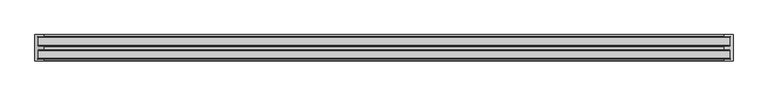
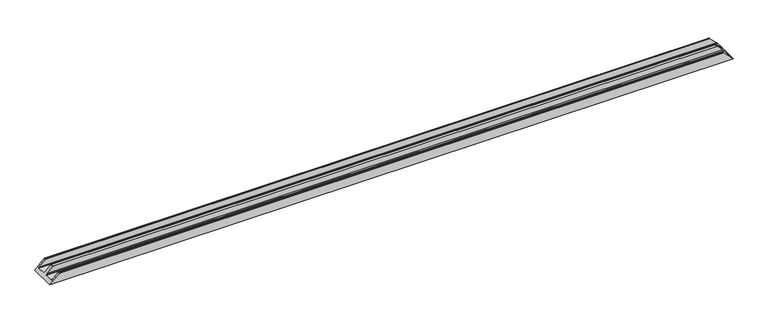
"""IFC4 building model written with IfcOpenShell, lengths in millimetres: proxy geometry, Weiku - Montante - Caixilho duplo 02.3.02.409 : Weiku - Montante - Caixilho duplo 02.3.02.409."""

from ifc_helpers import new_model, si_unit, frame, origin, place, context, project, spatial, ellipse_curve, source, transform, mapped, element, save
from ifc_brep_helpers import plane_surface, cylinder_surface, advanced_brep


def generic_models_45f3bb5d(model_context):
    return source(origin(), model_context, "Body", "AdvancedBrep", [
        advanced_brep(
        [(-2038.2, -9.8, 18.2), (2038.2, -9.8, 18.2), (2000.5, -9.8, 55.9), (-2000.5, -9.8, 55.9), (-2040.7000079, -63.85, 15.6999921), (2040.7000079, -63.85, 15.6999921), (2040.7000079, -15.05, 15.6999921), (-2040.7000079, -15.05, 15.6999921), (-2000.5000055, -69.1, 55.8999945), (2000.5000055, -69.1, 55.8999945), (2032.5700642, -69.1, 23.8299358), (-2032.5700642, -69.1, 23.8299358), (-2000.0000055, -86.65, 56.3999945), (2000.0000055, -86.65, 56.3999945), (2000.0000055, -69.6, 56.3999945), (-2000.0000055, -69.6, 56.3999945), (-2032.6236827, -87.15, 23.7763173), (2032.6236827, -87.15, 23.7763173), (2000.5000055, -87.15, 55.8999945), (-2000.5000055, -87.15, 55.8999945), (-2056.4, -156.2000166, 0.0), (-2056.4, 0.0, 0.0), (2056.4, 0.0, 0.0), (2056.4, -156.2000166, 0.0), (-2000.5, 0.0, 55.9), (2000.5, 0.0, 55.9), (-2000.0, -9.3, 56.4), (2000.0, -9.3, 56.4), (2000.0, -0.5, 56.4), (-2000.0, -0.5, 56.4), (-2000.5, -156.2000166, 55.9), (-2000.0, -155.7000166, 56.4), (-2000.0, -146.9000166, 56.4), (-2000.5, -146.4000166, 55.9), (-2038.2, -146.4000166, 18.2), (-2038.2, -141.1500166, 18.2), (-2040.7000079, -141.1500166, 15.6999921), (-2040.7000079, -92.3500166, 15.6999921), (-2038.2000178, -92.3500166, 18.1999822), (-2038.2, -63.85, 18.2), (-2038.2, -15.05, 18.2), (2038.2, -15.05, 18.2), (2038.2, -63.85, 18.2), (2038.2000178, -92.3500166, 18.1999822), (2040.7000079, -92.3500166, 15.6999921), (2040.7000079, -141.1500166, 15.6999921), (2038.2, -141.1500166, 18.2), (2038.2, -146.4000166, 18.2), (2000.5, -146.4000166, 55.9), (2000.0, -146.9000166, 56.4), (2000.0, -155.7000166, 56.4), (2000.5, -156.2000166, 55.9)],
        [
            (0, 1),
            (1, 2),
            (2, 3),
            (3, 0),
            (4, 5),
            (5, 6),
            (6, 7),
            (7, 4),
            (8, 9),
            (9, 10),
            (10, 11),
            (11, 8),
            (12, 13),
            (13, 14),
            (14, 15),
            (15, 12),
            (16, 17),
            (17, 18),
            (18, 19),
            (19, 16),
            (20, 21),
            (21, 22),
            (22, 23),
            (23, 20),
            (21, 24),
            (24, 25),
            (25, 22),
            (26, 27),
            (27, 28),
            (28, 29),
            (29, 26),
            (3, 26, ellipse_curve(frame((-2000.5, -9.3, 55.9), z_axis=(-0.7071067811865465, 0.0, 0.7071067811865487), x_axis=(-0.7071067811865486, 0.0, -0.7071067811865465)), 0.7071068, 0.5)),
            (29, 24, ellipse_curve(frame((-2000.5, -0.5, 55.9), z_axis=(-0.7071067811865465, 0.0, 0.7071067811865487), x_axis=(-0.7071067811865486, 0.0, -0.7071067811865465)), 0.7071068, 0.5)),
            (20, 30),
            (30, 31, ellipse_curve(frame((-2000.5, -155.7000166, 55.9), z_axis=(-0.7071067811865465, 0.0, 0.7071067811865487), x_axis=(-0.7071067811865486, 0.0, -0.7071067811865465)), 0.7071068, 0.5)),
            (31, 32),
            (32, 33, ellipse_curve(frame((-2000.5, -146.9000166, 55.9), z_axis=(-0.7071067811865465, 0.0, 0.7071067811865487), x_axis=(-0.7071067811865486, 0.0, -0.7071067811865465)), 0.7071068, 0.5)),
            (33, 34),
            (34, 35),
            (35, 36),
            (36, 37),
            (37, 38),
            (38, 16),
            (19, 12, ellipse_curve(frame((-2000.5000055, -86.65, 55.8999945), z_axis=(-0.7071067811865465, 0.0, 0.7071067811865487), x_axis=(-0.7071067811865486, 0.0, -0.7071067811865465)), 0.7071068, 0.5)),
            (15, 8, ellipse_curve(frame((-2000.5000055, -69.6, 55.8999945), z_axis=(-0.7071067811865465, 0.0, 0.7071067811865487), x_axis=(-0.7071067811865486, 0.0, -0.7071067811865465)), 0.7071068, 0.5)),
            (11, 39),
            (39, 4),
            (7, 40),
            (40, 0),
            (1, 41),
            (41, 6),
            (5, 42),
            (42, 10),
            (9, 14, ellipse_curve(frame((2000.5000055, -69.6, 55.8999945), z_axis=(0.7071067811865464, 0.0, 0.7071067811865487), x_axis=(-0.7071067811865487, 0.0, 0.7071067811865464)), 0.7071068, 0.5)),
            (13, 18, ellipse_curve(frame((2000.5000055, -86.65, 55.8999945), z_axis=(0.7071067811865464, 0.0, 0.7071067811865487), x_axis=(-0.7071067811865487, 0.0, 0.7071067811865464)), 0.7071068, 0.5)),
            (17, 43),
            (43, 44),
            (44, 45),
            (45, 46),
            (46, 47),
            (47, 48),
            (48, 49, ellipse_curve(frame((2000.5, -146.9000166, 55.9), z_axis=(0.7071067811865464, 0.0, 0.7071067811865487), x_axis=(-0.7071067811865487, 0.0, 0.7071067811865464)), 0.7071068, 0.5)),
            (49, 50),
            (50, 51, ellipse_curve(frame((2000.5, -155.7000166, 55.9), z_axis=(0.7071067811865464, 0.0, 0.7071067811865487), x_axis=(-0.7071067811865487, 0.0, 0.7071067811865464)), 0.7071068, 0.5)),
            (51, 23),
            (25, 28, ellipse_curve(frame((2000.5, -0.5, 55.9), z_axis=(0.7071067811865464, 0.0, 0.7071067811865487), x_axis=(-0.7071067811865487, 0.0, 0.7071067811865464)), 0.7071068, 0.5)),
            (27, 2, ellipse_curve(frame((2000.5, -9.3, 55.9), z_axis=(0.7071067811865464, 0.0, 0.7071067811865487), x_axis=(-0.7071067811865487, 0.0, 0.7071067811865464)), 0.7071068, 0.5)),
            (40, 41),
            (39, 42),
            (38, 43),
            (37, 44),
            (36, 45),
            (35, 46),
            (34, 47),
            (33, 48),
            (31, 50),
            (49, 32),
            (30, 51),
        ],
        [
            plane_surface(frame((-2056.4, -9.8, 55.9), z_axis=(0.0, -1.0, 0.0), x_axis=(1.0, 0.0, 0.0))),
            plane_surface(frame((-2056.4, -15.05, 15.6999921), z_axis=(0.0, 0.0, 1.0), x_axis=(1.0, 0.0, 0.0))),
            plane_surface(frame((-2056.4, -69.1, 23.8299358), z_axis=(0.0, 1.0, 0.0), x_axis=(1.0, 0.0, 0.0))),
            plane_surface(frame((-2056.4, -69.6, 56.3999945), z_axis=(0.0, 0.0, 1.0), x_axis=(1.0, 0.0, 0.0))),
            plane_surface(frame((-2056.4, -87.15, 55.8999945), z_axis=(0.0, -1.0, 0.0), x_axis=(1.0, 0.0, 0.0))),
            plane_surface(frame((-2056.4, -156.2000166, 0.0), z_axis=(0.0, 0.0, -1.0), x_axis=(1.0, 0.0, 0.0))),
            plane_surface(frame((-2056.4, 0.0, 0.0), z_axis=(0.0, 1.0, 0.0), x_axis=(1.0, 0.0, 0.0))),
            plane_surface(frame((-2056.4, -0.5, 56.4), z_axis=(0.0, 0.0, 1.0), x_axis=(1.0, 0.0, 0.0))),
            plane_surface(frame((-2056.4, 0.0, 0.0), z_axis=(-0.7071067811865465, 0.0, 0.7071067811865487), x_axis=(0.0, -1.0, 0.0))),
            plane_surface(frame((1996.4, 0.0, 60.0), z_axis=(0.7071067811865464, 0.0, 0.7071067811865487), x_axis=(0.0, -1.0, 0.0))),
            plane_surface(frame((-2056.4, -9.8, 18.2), z_axis=(0.0, 0.0, 1.0), x_axis=(1.0, 0.0, 0.0))),
            plane_surface(frame((-2056.4, -15.05, 18.2), z_axis=(0.0, -1.0, 0.0), x_axis=(1.0, 0.0, 0.0))),
            plane_surface(frame((-2056.4, -63.85, 15.6999921), z_axis=(0.0, 1.0, 0.0), x_axis=(1.0, 0.0, 0.0))),
            plane_surface(frame((-2056.4, -63.85, 18.2), z_axis=(0.0, 0.7313537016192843, 0.6819983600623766), x_axis=(1.0, 0.0, 0.0))),
            cylinder_surface(frame((-2056.4, -86.65, 55.8999945), z_axis=(-1.0, 0.0, 0.0), x_axis=(0.0, -1.0, 0.0)), 0.5),
            cylinder_surface(frame((-2056.4, -0.5, 55.9), z_axis=(-1.0, 0.0, 0.0), x_axis=(0.0, -1.0, 0.0)), 0.5),
            plane_surface(frame((-2056.4, -87.15, 23.7763173), z_axis=(0.0, -0.7313537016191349, 0.6819983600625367), x_axis=(1.0, 0.0, 0.0))),
            plane_surface(frame((-2056.4, -92.3500166, 18.1999822), z_axis=(0.0, -1.0, 0.0), x_axis=(1.0, 0.0, 0.0))),
            plane_surface(frame((-2056.4, -92.3500166, 15.6999921), z_axis=(0.0, 0.0, 1.0), x_axis=(1.0, 0.0, 0.0))),
            plane_surface(frame((-2056.4, -141.1500166, 15.6999921), z_axis=(0.0, 1.0, 0.0), x_axis=(1.0, 0.0, 0.0))),
            plane_surface(frame((-2056.4, -141.1500166, 18.2), z_axis=(0.0, 0.0, 1.0), x_axis=(1.0, 0.0, 0.0))),
            plane_surface(frame((-2056.4, -146.4000166, 18.2), z_axis=(0.0, 1.0, 0.0), x_axis=(1.0, 0.0, 0.0))),
            plane_surface(frame((-2056.4, -146.9000166, 56.4), z_axis=(0.0, 0.0, 1.0), x_axis=(1.0, 0.0, 0.0))),
            cylinder_surface(frame((-2056.4, -155.7000166, 55.9), z_axis=(-1.0, 0.0, 0.0), x_axis=(0.0, 1.0, 0.0)), 0.5),
            plane_surface(frame((-2056.4, -156.2000166, 55.9), z_axis=(0.0, -1.0, 0.0), x_axis=(1.0, 0.0, 0.0))),
            cylinder_surface(frame((-2056.4, -9.3, 55.9), z_axis=(-1.0, 0.0, 0.0), x_axis=(0.0, -1.0, 0.0)), 0.5),
            cylinder_surface(frame((-2056.4, -69.6, 55.8999945), z_axis=(-1.0, 0.0, 0.0), x_axis=(0.0, -1.0, 0.0)), 0.5),
            cylinder_surface(frame((-2056.4, -146.9000166, 55.9), z_axis=(-1.0, 0.0, 0.0), x_axis=(0.0, -1.0, 0.0)), 0.5),
        ],
        [
            (0, [[1, 2, 3, 4]]),
            (1, [[5, 6, 7, 8]]),
            (2, [[9, 10, 11, 12]]),
            (3, [[13, 14, 15, 16]]),
            (4, [[17, 18, 19, 20]]),
            (5, [[21, 22, 23, 24]]),
            (6, [[25, 26, 27, -22]]),
            (7, [[28, 29, 30, 31]]),
            (8, [[32, -31, 33, -25, -21, 34, 35, 36, 37, 38, 39, 40, 41, 42, 43, -20, 44, -16, 45, -12, 46, 47, -8, 48, 49, -4]]),
            (9, [[50, 51, -6, 52, 53, -10, 54, -14, 55, -18, 56, 57, 58, 59, 60, 61, 62, 63, 64, 65, -23, -27, 66, -29, 67, -2]]),
            (10, [[68, -50, -1, -49]]),
            (11, [[-7, -51, -68, -48]]),
            (12, [[69, -52, -5, -47]]),
            (13, [[-11, -53, -69, -46]]),
            (14, [[-19, -55, -13, -44]]),
            (15, [[-30, -66, -26, -33]]),
            (16, [[70, -56, -17, -43]]),
            (17, [[71, -57, -70, -42]]),
            (18, [[72, -58, -71, -41]]),
            (19, [[73, -59, -72, -40]]),
            (20, [[74, -60, -73, -39]]),
            (21, [[75, -61, -74, -38]]),
            (22, [[76, -63, 77, -36]]),
            (23, [[78, -64, -76, -35]]),
            (24, [[-65, -78, -34, -24]]),
            (25, [[-3, -67, -28, -32]]),
            (26, [[-15, -54, -9, -45]]),
            (27, [[-77, -62, -75, -37]]),
        ],
    ),
    ])


if __name__ == "__main__":
    model = new_model("IFC4")
    model_context = context("Model", 3, world=origin())
    ifc_project = project(units=[si_unit("LENGTHUNIT", "METRE", prefix="MILLI")], contexts=[model_context])
    site = spatial("IfcSite", under=ifc_project)
    building = spatial("IfcBuilding", under=site)
    placement = place(None, origin())
    generic_models_shape = generic_models_45f3bb5d(model_context)
    element("IfcBuildingElementProxy", 1, Name="Weiku - Montante - Caixilho duplo 02.3.02.409 : Weiku - Montante - Caixilho duplo 02.3.02.409", ObjectType="Weiku - Montante - Caixilho duplo 02.3.02.409 : Weiku - Montante - Caixilho duplo 02.3.02.409", at=placement, inside=building, context=model_context, shape_type="MappedRepresentation", body=[
        mapped(generic_models_shape, transform((0.0, 0.0, 0.0), x_axis=(1.0, 0.0, 0.0), y_axis=(0.0, 1.0, 0.0), z_axis=(0.0, 0.0, 1.0))),
    ])
    save(model, "model.ifc")
